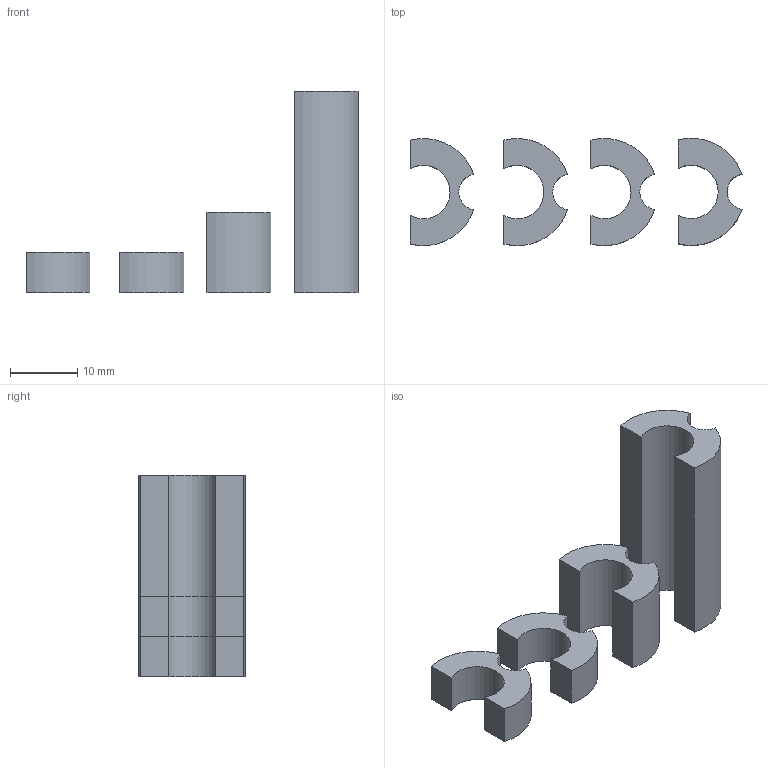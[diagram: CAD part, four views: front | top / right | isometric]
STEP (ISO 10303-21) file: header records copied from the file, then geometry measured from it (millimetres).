
FILE_DESCRIPTION(/* description */ (''),/* implementation_level */ '2;1');
FILE_NAME(/* name */ 'linear rail spacers v3.step',/* time_stamp */ '2023-03-23T06:37:59-06:00',/* author */ (''),/* organization */ (''),/* preprocessor_version */ 'ST-DEVELOPER v19.2',/* originating_system */ 'Autodesk Translation Framework v11.17.0.187',/* authorisation */ '');
FILE_SCHEMA (('AUTOMOTIVE_DESIGN { 1 0 10303 214 3 1 1 }'));
Length unit declared in the file: millimetre
Products named in the file (1): linear rail spacers
Bounding box: 49.53 x 15.95 x 30 mm (x, y, z)
Volume: 4378.9 mm3; surface area: 3699.7 mm2
Topology: 4 solids, 4 shells, 32 faces, 72 edges, 48 vertices
Faces by surface type: cylinder 16, plane 16
Entity records: 938 total; most frequent: DIRECTION 170, CARTESIAN_POINT 153, ORIENTED_EDGE 144, EDGE_CURVE 72, AXIS2_PLACEMENT_3D 65, VERTEX_POINT 48, LINE 40, VECTOR 40
